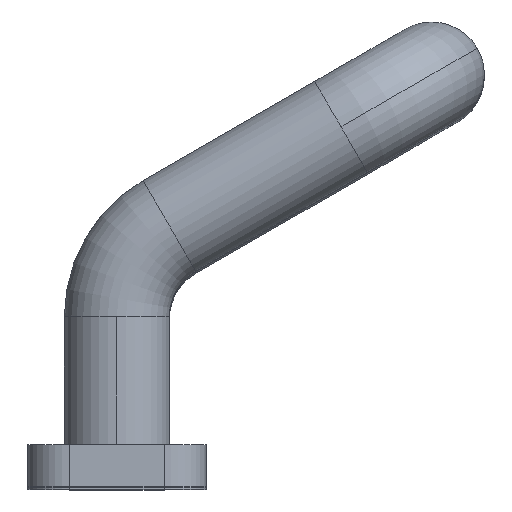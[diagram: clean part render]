
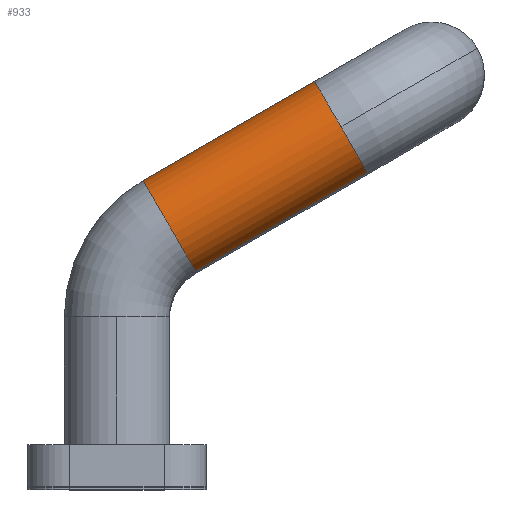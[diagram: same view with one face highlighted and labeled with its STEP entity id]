
A CAD part, top view. The second image highlights one B-rep face of the part: STEP entity #933.
In plain terms, the highlighted cylindrical face has radius 5 mm (diameter 10 mm), a partial arc.
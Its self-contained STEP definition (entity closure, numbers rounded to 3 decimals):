
#32 = EDGE_LOOP ( 'NONE', ( #997, #360, #241, #1312, #600 ) ) ;
#66 = DIRECTION ( 'NONE',  ( 0.866, 0.5, 0. ) ) ;
#100 = DIRECTION ( 'NONE',  ( -0.5, 0.866, 0. ) ) ;
#131 = CIRCLE ( 'NONE', #660, 5. ) ;
#157 = DIRECTION ( 'NONE',  ( 0.866, 0.5, 0. ) ) ;
#216 = CARTESIAN_POINT ( 'NONE',  ( 5., 24.887, 0. ) ) ;
#231 = CIRCLE ( 'NONE', #255, 5. ) ;
#232 = CIRCLE ( 'NONE', #1174, 5. ) ;
#241 = ORIENTED_EDGE ( 'NONE', *, *, #443, .F. ) ;
#255 = AXIS2_PLACEMENT_3D ( 'NONE', #977, #1319, #1300 ) ;
#268 = CARTESIAN_POINT ( 'NONE',  ( 23.84, 29.99, 0. ) ) ;
#319 = VERTEX_POINT ( 'NONE', #268 ) ;
#328 = DIRECTION ( 'NONE',  ( 0.866, 0.5, 0. ) ) ;
#340 = CARTESIAN_POINT ( 'NONE',  ( 21.34, 34.321, 5. ) ) ;
#348 = EDGE_CURVE ( 'NONE', #1081, #319, #942, .T. ) ;
#360 = ORIENTED_EDGE ( 'NONE', *, *, #348, .T. ) ;
#369 = DIRECTION ( 'NONE',  ( 0., 0., 1. ) ) ;
#377 = CARTESIAN_POINT ( 'NONE',  ( 21.34, 34.321, 0. ) ) ;
#394 = AXIS2_PLACEMENT_3D ( 'NONE', #216, #328, #100 ) ;
#399 = CARTESIAN_POINT ( 'NONE',  ( 7.5, 20.557, 0. ) ) ;
#443 = EDGE_CURVE ( 'NONE', #1044, #319, #131, .T. ) ;
#495 = VERTEX_POINT ( 'NONE', #1063 ) ;
#532 = FACE_OUTER_BOUND ( 'NONE', #32, .T. ) ;
#600 = ORIENTED_EDGE ( 'NONE', *, *, #722, .F. ) ;
#660 = AXIS2_PLACEMENT_3D ( 'NONE', #1386, #1077, #1291 ) ;
#722 = EDGE_CURVE ( 'NONE', #982, #495, #1371, .T. ) ;
#901 = CARTESIAN_POINT ( 'NONE',  ( 7.5, 20.557, 0. ) ) ;
#933 = ADVANCED_FACE ( 'NONE', ( #532 ), #1199, .T. ) ;
#942 = LINE ( 'NONE', #399, #1074 ) ;
#952 = EDGE_CURVE ( 'NONE', #982, #1081, #231, .T. ) ;
#977 = CARTESIAN_POINT ( 'NONE',  ( 5., 24.887, 0. ) ) ;
#982 = VERTEX_POINT ( 'NONE', #1189 ) ;
#997 = ORIENTED_EDGE ( 'NONE', *, *, #952, .T. ) ;
#1003 = VECTOR ( 'NONE', #66, 1000. ) ;
#1044 = VERTEX_POINT ( 'NONE', #340 ) ;
#1062 = CARTESIAN_POINT ( 'NONE',  ( 2.5, 29.217, 0. ) ) ;
#1063 = CARTESIAN_POINT ( 'NONE',  ( 18.84, 38.651, 0. ) ) ;
#1074 = VECTOR ( 'NONE', #1135, 1000. ) ;
#1077 = DIRECTION ( 'NONE',  ( 0.866, 0.5, 0. ) ) ;
#1081 = VERTEX_POINT ( 'NONE', #901 ) ;
#1135 = DIRECTION ( 'NONE',  ( 0.866, 0.5, 0. ) ) ;
#1174 = AXIS2_PLACEMENT_3D ( 'NONE', #377, #157, #369 ) ;
#1189 = CARTESIAN_POINT ( 'NONE',  ( 2.5, 29.217, 0. ) ) ;
#1199 = CYLINDRICAL_SURFACE ( 'NONE', #394, 5. ) ;
#1264 = EDGE_CURVE ( 'NONE', #495, #1044, #232, .T. ) ;
#1291 = DIRECTION ( 'NONE',  ( 0., 0., 1. ) ) ;
#1300 = DIRECTION ( 'NONE',  ( 0., 0., 1. ) ) ;
#1312 = ORIENTED_EDGE ( 'NONE', *, *, #1264, .F. ) ;
#1319 = DIRECTION ( 'NONE',  ( 0.866, 0.5, 0. ) ) ;
#1371 = LINE ( 'NONE', #1062, #1003 ) ;
#1386 = CARTESIAN_POINT ( 'NONE',  ( 21.34, 34.321, 0. ) ) ;
